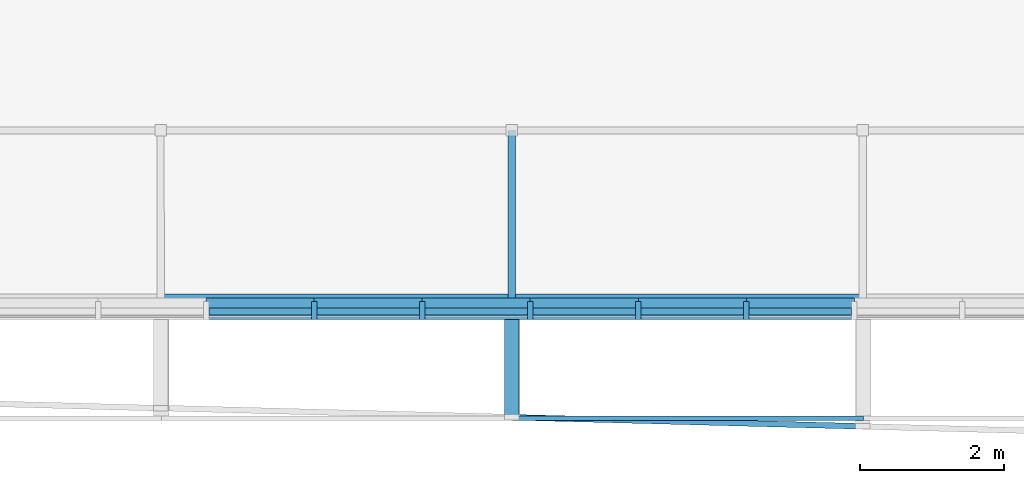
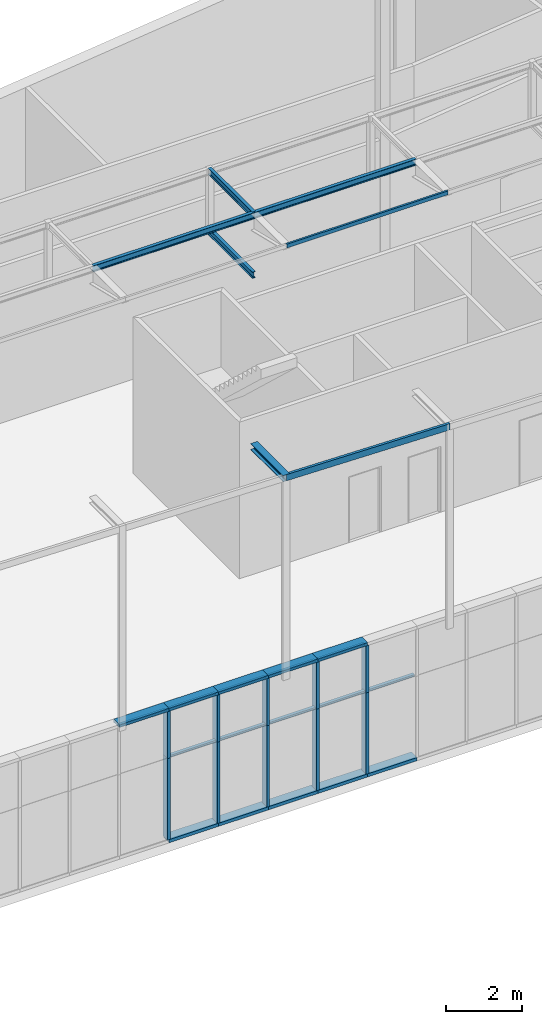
# One storey, part 12 of 40: 30 members, 7 beams, 1 element without a shape of its own.
"""IFC2X3 building model written with IfcOpenShell, lengths in metres."""

from ifc_helpers import new_model, entity, si_unit, converted_unit, money_unit, point, direction, frame, frame_2d, origin_with_axes, place, context, subcontext, project, spatial, polyline, circle_curve, parameter, trimmed, segment, composite_curve, outline, extrude, clip, halfspace, material, type_object, element, aggregate, save


model = new_model("IFC2X3")

# Units and contexts
model_context = context("Model", 3, precision=1e-05, world=origin_with_axes(), true_north=direction((0.0, 1.0)))
body_context = subcontext(model_context, "Body", "Model", "MODEL_VIEW")
ifc_project = project(units=[si_unit("LENGTHUNIT", "METRE"), si_unit("AREAUNIT", "SQUARE_METRE"), si_unit("VOLUMEUNIT", "CUBIC_METRE"), converted_unit("PLANEANGLEUNIT", "DEGREE", entity("IfcPlaneAngleMeasure", 0.0174532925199), si_unit("PLANEANGLEUNIT", "RADIAN"), dimensions=[0, 0, 0, 0, 0, 0, 0]), si_unit("SOLIDANGLEUNIT", "STERADIAN"), money_unit("EUR"), converted_unit("TIMEUNIT", "Year", entity("IfcTimeMeasure", 31556926.0), si_unit("TIMEUNIT", "SECOND"), dimensions=[0, 0, 0, 0, 0, 0, 0]), si_unit("MASSUNIT", "GRAM"), si_unit("THERMODYNAMICTEMPERATUREUNIT", "DEGREE_CELSIUS"), si_unit("LUMINOUSINTENSITYUNIT", "LUMEN")], contexts=[model_context])

# Site, building, storey
site_placement = place(None, origin_with_axes())
site = spatial("IfcSite", under=ifc_project, at=site_placement, Name="Undefined", CompositionType="ELEMENT")
building_placement = place(site_placement, origin_with_axes())
building = spatial("IfcBuilding", under=site, at=building_placement, Name="Undefined", CompositionType="ELEMENT")
storey_placement = place(building_placement, origin_with_axes())
storey = spatial("IfcBuildingStorey", under=building, at=storey_placement, Name="Rez de chauss\x8ee", CompositionType="ELEMENT", Elevation=0.0)

# Beams
ifc_material_1 = material(Name="STEEL/S235JRG2 3386696625")
beam_type_1 = type_object("IfcBeamType", Name="IPE200", PredefinedType="NOTDEFINED")
beam_1_placement = place(storey_placement, frame((42.2249993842, 6.91842413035e-10, 19.02503), z_axis=(0.0, 0.0, 1.0), x_axis=(0.0, -1.0, 0.0)))
element("IfcBeam", 1, at=beam_1_placement, inside=storey, type_object=beam_type_1, material=ifc_material_1, Name="BEAM", ObjectType="BEAM", context=body_context, shape_type="SweptSolid", body=[
    extrude(outline(composite_curve([segment(polyline([(0.05, -0.1), (0.05, -0.0915), (0.0147999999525, -0.0915)]), True, "CONTINUOUS"), segment(trimmed(circle_curve(frame_2d((0.0147999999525, -0.0795), x_axis=(-1.0, 0.0)), 0.012), [point((0.0147999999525, -0.0915)), parameter(90.0)], [point((0.0027999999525, -0.0795)), parameter(0.0)], False, "CARTESIAN"), True, "CONTINUOUS"), segment(polyline([(0.0027999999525, -0.0795), (0.0027999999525, 0.0795)]), True, "CONTINUOUS"), segment(trimmed(circle_curve(frame_2d((0.0147999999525, 0.0795), x_axis=(0.0, 1.0)), 0.012), [point((0.0027999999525, 0.0795)), parameter(90.0)], [point((0.0147999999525, 0.0915)), parameter(0.0)], False, "CARTESIAN"), True, "CONTINUOUS"), segment(polyline([(0.0147999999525, 0.0915), (0.05, 0.0915), (0.05, 0.1), (-0.05, 0.1), (-0.05, 0.0915), (-0.0147999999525, 0.0915)]), True, "CONTINUOUS"), segment(trimmed(circle_curve(frame_2d((-0.0147999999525, 0.0795), x_axis=(1.0, 0.0)), 0.012), [point((-0.0147999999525, 0.0915)), parameter(90.0)], [point((-0.0027999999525, 0.0795)), parameter(0.0)], False, "CARTESIAN"), True, "CONTINUOUS"), segment(polyline([(-0.0027999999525, 0.0795), (-0.0027999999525, -0.0795)]), True, "CONTINUOUS"), segment(trimmed(circle_curve(frame_2d((-0.0147999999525, -0.0795), x_axis=(0.0, -1.0)), 0.012), [point((-0.0027999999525, -0.0795)), parameter(90.0)], [point((-0.0147999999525, -0.0915)), parameter(0.0)], False, "CARTESIAN"), True, "CONTINUOUS"), segment(polyline([(-0.0147999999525, -0.0915), (-0.05, -0.0915), (-0.05, -0.1), (0.05, -0.1)]), True, "CONTINUOUS")], self_intersect=False)), frame((0.0, 4.875, 0.0), z_axis=(0.0, -1.0, 0.0), x_axis=(1.0, 0.0, 0.0)), (0.0, 0.0, 1.0), 4.875),
])
beam_2_placement = place(storey_placement, frame((42.2249999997, -4.6836663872e-06, 19.02503), z_axis=(0.0, 0.0, 1.0), x_axis=(1.0, 0.0, 0.0)))
element("IfcBeam", 2, at=beam_2_placement, inside=storey, type_object=beam_type_1, material=ifc_material_1, Name="BEAM", ObjectType="BEAM", context=body_context, shape_type="Clipping", body=[
    clip(clip(extrude(outline(composite_curve([segment(polyline([(0.05, -0.1), (0.05, -0.0915), (0.0147999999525, -0.0915)]), True, "CONTINUOUS"), segment(trimmed(circle_curve(frame_2d((0.0147999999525, -0.0795), x_axis=(-1.0, 0.0)), 0.012), [point((0.0147999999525, -0.0915)), parameter(90.0)], [point((0.0027999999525, -0.0795)), parameter(0.0)], False, "CARTESIAN"), True, "CONTINUOUS"), segment(polyline([(0.0027999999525, -0.0795), (0.0027999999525, 0.0795)]), True, "CONTINUOUS"), segment(trimmed(circle_curve(frame_2d((0.0147999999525, 0.0795), x_axis=(0.0, 1.0)), 0.012), [point((0.0027999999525, 0.0795)), parameter(90.0)], [point((0.0147999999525, 0.0915)), parameter(0.0)], False, "CARTESIAN"), True, "CONTINUOUS"), segment(polyline([(0.0147999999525, 0.0915), (0.05, 0.0915), (0.05, 0.1), (-0.05, 0.1), (-0.05, 0.0915), (-0.0147999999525, 0.0915)]), True, "CONTINUOUS"), segment(trimmed(circle_curve(frame_2d((-0.0147999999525, 0.0795), x_axis=(1.0, 0.0)), 0.012), [point((-0.0147999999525, 0.0915)), parameter(90.0)], [point((-0.0027999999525, 0.0795)), parameter(0.0)], False, "CARTESIAN"), True, "CONTINUOUS"), segment(polyline([(-0.0027999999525, 0.0795), (-0.0027999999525, -0.0795)]), True, "CONTINUOUS"), segment(trimmed(circle_curve(frame_2d((-0.0147999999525, -0.0795), x_axis=(0.0, -1.0)), 0.012), [point((-0.0027999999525, -0.0795)), parameter(90.0)], [point((-0.0147999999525, -0.0915)), parameter(0.0)], False, "CARTESIAN"), True, "CONTINUOUS"), segment(polyline([(-0.0147999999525, -0.0915), (-0.05, -0.0915), (-0.05, -0.1), (0.05, -0.1)]), True, "CONTINUOUS")], self_intersect=False)), frame((0.0, 2.32501018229, -2.79001147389e-05), z_axis=(0.0, -0.999999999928, 1.19999967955e-05), x_axis=(1.0, 0.0, 0.0)), (0.0, 0.0, 1.0), 2.32501357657), halfspace(frame((0.0, 3.39411164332e-06, 0.0), z_axis=(0.0, 0.999999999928, -1.19999967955e-05), x_axis=(0.0, 1.19999967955e-05, 0.999999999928)), True)), halfspace(frame((0.0, 2.32500339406, -2.79000332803e-05), z_axis=(0.0, -0.999999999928, 1.19999967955e-05), x_axis=(0.0, -1.19999967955e-05, -0.999999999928)), True)),
])
beam_3_placement = place(storey_placement, frame((42.2249999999, 8.60741256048e-10, 17.1), z_axis=(0.0, 0.0, 1.0), x_axis=(1.0, 0.0, 0.0)))
element("IfcBeam", 3, at=beam_3_placement, inside=storey, type_object=beam_type_1, material=ifc_material_1, Name="BEAM", ObjectType="BEAM", context=body_context, shape_type="SweptSolid", body=[
    extrude(outline(composite_curve([segment(polyline([(0.05, -0.1), (0.05, -0.0915), (0.0147999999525, -0.0915)]), True, "CONTINUOUS"), segment(trimmed(circle_curve(frame_2d((0.0147999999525, -0.0795), x_axis=(-1.0, 0.0)), 0.012), [point((0.0147999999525, -0.0915)), parameter(90.0)], [point((0.0027999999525, -0.0795)), parameter(0.0)], False, "CARTESIAN"), True, "CONTINUOUS"), segment(polyline([(0.0027999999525, -0.0795), (0.0027999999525, 0.0795)]), True, "CONTINUOUS"), segment(trimmed(circle_curve(frame_2d((0.0147999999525, 0.0795), x_axis=(0.0, 1.0)), 0.012), [point((0.0027999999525, 0.0795)), parameter(90.0)], [point((0.0147999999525, 0.0915)), parameter(0.0)], False, "CARTESIAN"), True, "CONTINUOUS"), segment(polyline([(0.0147999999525, 0.0915), (0.05, 0.0915), (0.05, 0.1), (-0.05, 0.1), (-0.05, 0.0915), (-0.0147999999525, 0.0915)]), True, "CONTINUOUS"), segment(trimmed(circle_curve(frame_2d((-0.0147999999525, 0.0795), x_axis=(1.0, 0.0)), 0.012), [point((-0.0147999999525, 0.0915)), parameter(90.0)], [point((-0.0027999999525, 0.0795)), parameter(0.0)], False, "CARTESIAN"), True, "CONTINUOUS"), segment(polyline([(-0.0027999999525, 0.0795), (-0.0027999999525, -0.0795)]), True, "CONTINUOUS"), segment(trimmed(circle_curve(frame_2d((-0.0147999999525, -0.0795), x_axis=(0.0, -1.0)), 0.012), [point((-0.0027999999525, -0.0795)), parameter(90.0)], [point((-0.0147999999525, -0.0915)), parameter(0.0)], False, "CARTESIAN"), True, "CONTINUOUS"), segment(polyline([(-0.0147999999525, -0.0915), (-0.05, -0.0915), (-0.05, -0.1), (0.05, -0.1)]), True, "CONTINUOUS")], self_intersect=False)), frame((0.0, 2.325, 0.0), z_axis=(0.0, -1.0, 0.0), x_axis=(1.0, 0.0, 0.0)), (0.0, 0.0, 1.0), 2.325),
])
beam_4_placement = place(storey_placement, frame((37.350000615, 5.48680709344e-10, 19.025), z_axis=(0.0, 0.0, 1.0), x_axis=(0.0, -1.0, 0.0)))
element("IfcBeam", 4, at=beam_4_placement, inside=storey, type_object=beam_type_1, material=ifc_material_1, Name="Poutre", ObjectType="BEAM", context=body_context, shape_type="SweptSolid", body=[
    extrude(outline(composite_curve([segment(polyline([(0.05, -0.1), (0.05, -0.0915), (0.0147999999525, -0.0915)]), True, "CONTINUOUS"), segment(trimmed(circle_curve(frame_2d((0.0147999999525, -0.0795), x_axis=(-1.0, 0.0)), 0.012), [point((0.0147999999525, -0.0915)), parameter(90.0)], [point((0.0027999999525, -0.0795)), parameter(0.0)], False, "CARTESIAN"), True, "CONTINUOUS"), segment(polyline([(0.0027999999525, -0.0795), (0.0027999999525, 0.0795)]), True, "CONTINUOUS"), segment(trimmed(circle_curve(frame_2d((0.0147999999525, 0.0795), x_axis=(0.0, 1.0)), 0.012), [point((0.0027999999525, 0.0795)), parameter(90.0)], [point((0.0147999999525, 0.0915)), parameter(0.0)], False, "CARTESIAN"), True, "CONTINUOUS"), segment(polyline([(0.0147999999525, 0.0915), (0.05, 0.0915), (0.05, 0.1), (-0.05, 0.1), (-0.05, 0.0915), (-0.0147999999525, 0.0915)]), True, "CONTINUOUS"), segment(trimmed(circle_curve(frame_2d((-0.0147999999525, 0.0795), x_axis=(1.0, 0.0)), 0.012), [point((-0.0147999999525, 0.0915)), parameter(90.0)], [point((-0.0027999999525, 0.0795)), parameter(0.0)], False, "CARTESIAN"), True, "CONTINUOUS"), segment(polyline([(-0.0027999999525, 0.0795), (-0.0027999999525, -0.0795)]), True, "CONTINUOUS"), segment(trimmed(circle_curve(frame_2d((-0.0147999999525, -0.0795), x_axis=(0.0, -1.0)), 0.012), [point((-0.0027999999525, -0.0795)), parameter(90.0)], [point((-0.0147999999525, -0.0915)), parameter(0.0)], False, "CARTESIAN"), True, "CONTINUOUS"), segment(polyline([(-0.0147999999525, -0.0915), (-0.05, -0.0915), (-0.05, -0.1), (0.05, -0.1)]), True, "CONTINUOUS")], self_intersect=False)), frame((0.0, 4.875, 0.0), z_axis=(0.0, -1.0, 0.0), x_axis=(1.0, 0.0, 0.0)), (0.0, 0.0, 1.0), 4.875),
])
beam_type_2 = type_object("IfcBeamType", Name="UPE200", PredefinedType="NOTDEFINED")
beam_5_placement = place(storey_placement, frame((42.226038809, -1.65825879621, 11.65), z_axis=(0.0, 0.0, 1.0), x_axis=(-0.0258861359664, -0.999664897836, 0.0)))
element("IfcBeam", 5, at=beam_5_placement, inside=storey, type_object=beam_type_2, material=ifc_material_1, Name="BEAM", ObjectType="BEAM", context=body_context, shape_type="SweptSolid", body=[
    extrude(outline(composite_curve([segment(polyline([(-0.04, -0.1), (0.04, -0.1), (0.04, -0.089), (-0.021, -0.089)]), True, "CONTINUOUS"), segment(trimmed(circle_curve(frame_2d((-0.021, -0.076), x_axis=(-1.0, 0.0)), 0.013), [point((-0.021, -0.089)), parameter(90.0)], [point((-0.034, -0.076)), parameter(0.0)], False, "CARTESIAN"), True, "CONTINUOUS"), segment(polyline([(-0.034, -0.076), (-0.034, 0.076)]), True, "CONTINUOUS"), segment(trimmed(circle_curve(frame_2d((-0.021, 0.076), x_axis=(0.0, 1.0)), 0.013), [point((-0.034, 0.076)), parameter(90.0)], [point((-0.021, 0.089)), parameter(0.0)], False, "CARTESIAN"), True, "CONTINUOUS"), segment(polyline([(-0.021, 0.089), (0.04, 0.089), (0.04, 0.1), (-0.04, 0.1), (-0.04, -0.1)]), True, "CONTINUOUS")], self_intersect=False)), frame((0.0, 4.87663417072, 0.0), z_axis=(0.0, -1.0, 0.0), x_axis=(-1.0, 0.0, 0.0)), (0.0, 0.0, 1.0), 4.87663417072),
])
beam_type_3 = type_object("IfcBeamType", Name="UPE120", PredefinedType="NOTDEFINED")
beam_6_placement = place(storey_placement, frame((42.2346818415, -1.67000005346, 19.045), z_axis=(0.0, 0.0, 1.0), x_axis=(0.0, -1.0, 0.0)))
element("IfcBeam", 6, at=beam_6_placement, inside=storey, type_object=beam_type_3, material=ifc_material_1, Name="Poutre", ObjectType="BEAM", context=body_context, shape_type="SweptSolid", body=[
    extrude(outline(composite_curve([segment(polyline([(-0.03, -0.06), (0.03, -0.06), (0.03, -0.052), (-0.013, -0.052)]), True, "CONTINUOUS"), segment(trimmed(circle_curve(frame_2d((-0.013, -0.04), x_axis=(-1.0, 0.0)), 0.012), [point((-0.013, -0.052)), parameter(90.0)], [point((-0.025, -0.04)), parameter(0.0)], False, "CARTESIAN"), True, "CONTINUOUS"), segment(polyline([(-0.025, -0.04), (-0.025, 0.04)]), True, "CONTINUOUS"), segment(trimmed(circle_curve(frame_2d((-0.013, 0.04), x_axis=(0.0, 1.0)), 0.012), [point((-0.025, 0.04)), parameter(90.0)], [point((-0.013, 0.052)), parameter(0.0)], False, "CARTESIAN"), True, "CONTINUOUS"), segment(polyline([(-0.013, 0.052), (0.03, 0.052), (0.03, 0.06), (-0.03, 0.06), (-0.03, -0.06)]), True, "CONTINUOUS")], self_intersect=False)), frame((0.0, 4.87499951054, 0.0), z_axis=(0.0, -1.0, 0.0), x_axis=(-1.0, 0.0, 0.0)), (0.0, 0.0, 1.0), 4.87499951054),
])
beam_type_4 = type_object("IfcBeamType", Name="HEB200", PredefinedType="NOTDEFINED")
beam_7_placement = place(storey_placement, frame((42.2249999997, 6.92364610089e-10, 11.65), z_axis=(0.0, 0.0, 1.0), x_axis=(-1.0, 0.0, 0.0)))
element("IfcBeam", 7, at=beam_7_placement, inside=storey, type_object=beam_type_4, material=ifc_material_1, Name="BEAM", ObjectType="BEAM", context=body_context, shape_type="SweptSolid", body=[
    extrude(outline(composite_curve([segment(polyline([(0.1, -0.1), (0.1, -0.085), (0.0225, -0.085)]), True, "CONTINUOUS"), segment(trimmed(circle_curve(frame_2d((0.0225, -0.067), x_axis=(-1.0, 0.0)), 0.018), [point((0.0225, -0.085)), parameter(90.0)], [point((0.0045, -0.067)), parameter(0.0)], False, "CARTESIAN"), True, "CONTINUOUS"), segment(polyline([(0.0045, -0.067), (0.0045, 0.067)]), True, "CONTINUOUS"), segment(trimmed(circle_curve(frame_2d((0.0225, 0.067), x_axis=(0.0, 1.0)), 0.018), [point((0.0045, 0.067)), parameter(90.0)], [point((0.0225, 0.085)), parameter(0.0)], False, "CARTESIAN"), True, "CONTINUOUS"), segment(polyline([(0.0225, 0.085), (0.1, 0.085), (0.1, 0.1), (-0.1, 0.1), (-0.1, 0.085), (-0.0225, 0.085)]), True, "CONTINUOUS"), segment(trimmed(circle_curve(frame_2d((-0.0225, 0.067), x_axis=(1.0, 0.0)), 0.018), [point((-0.0225, 0.085)), parameter(90.0)], [point((-0.0045, 0.067)), parameter(0.0)], False, "CARTESIAN"), True, "CONTINUOUS"), segment(polyline([(-0.0045, 0.067), (-0.0045, -0.067)]), True, "CONTINUOUS"), segment(trimmed(circle_curve(frame_2d((-0.0225, -0.067), x_axis=(0.0, -1.0)), 0.018), [point((-0.0045, -0.067)), parameter(90.0)], [point((-0.0225, -0.085)), parameter(0.0)], False, "CARTESIAN"), True, "CONTINUOUS"), segment(polyline([(-0.0225, -0.085), (-0.1, -0.085), (-0.1, -0.1), (0.1, -0.1)]), True, "CONTINUOUS")], self_intersect=False)), frame((0.0, 1.69643261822, 0.0), z_axis=(0.0, -1.0, 0.0), x_axis=(1.0, 0.0, 0.0)), (0.0, 0.0, 1.0), 1.69643261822),
])

# Curtain wall, members
curtain_wall_type = type_object("IfcCurtainWallType", Name="Type de mur-rideau", PredefinedType="NOTDEFINED")
curtain_wall_placement = place(storey_placement, frame((61.0415862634, -0.249999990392, 0.1), z_axis=(0.0, 0.0, 1.0), x_axis=(1.0, 0.0, 0.0)))
curtain_wall = element("IfcCurtainWall", 8, at=curtain_wall_placement, inside=storey, type_object=curtain_wall_type, Name="CurtainWall_02", ObjectType="CURTAIN WALL")
ifc_material_2 = material(Name="25 % 359672764")
member_type_1 = type_object("IfcMemberType", Name="Cadre 100 x 300", PredefinedType="NOTDEFINED")
member_1_placement = place(curtain_wall_placement, frame((-21.5584137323, 3.70949553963e-07, 0.0), z_axis=(1.0, -1.72067183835e-08, 0.0), x_axis=(0.0, 0.0, 1.0)))
member_1 = element("IfcMember", 9, at=member_1_placement, type_object=member_type_1, material=ifc_material_2, Name="Frame-Bnd-919", context=body_context, shape_type="SweptSolid", body=[
    extrude(outline(polyline([(-0.25, -0.1), (0.05, -0.1), (0.05, 0.0), (-0.25, 0.0), (-0.25, -0.1)])), frame((0.0, 0.0, 0.0), z_axis=(0.0, 0.0, 1.0), x_axis=(0.0, 1.0, 0.0)), (0.0, 0.0, 1.0), 1.5),
])
member_2_placement = place(curtain_wall_placement, frame((-20.0584137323, 3.45139476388e-07, 0.0), z_axis=(1.0, -1.72067183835e-08, 0.0), x_axis=(0.0, 0.0, 1.0)))
member_2 = element("IfcMember", 10, at=member_2_placement, type_object=member_type_1, material=ifc_material_2, Name="Frame-Bnd-918", context=body_context, shape_type="SweptSolid", body=[
    extrude(outline(polyline([(-0.25, -0.1), (0.05, -0.1), (0.05, 0.0), (-0.25, 0.0), (-0.25, -0.1)])), frame((0.0, 0.0, 0.0), z_axis=(0.0, 0.0, 1.0), x_axis=(0.0, 1.0, 0.0)), (0.0, 0.0, 1.0), 1.5),
])
member_3_placement = place(curtain_wall_placement, frame((-18.5584137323, 3.19329398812e-07, 0.0), z_axis=(1.0, -1.7206718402e-08, 0.0), x_axis=(0.0, 0.0, 1.0)))
member_3 = element("IfcMember", 11, at=member_3_placement, type_object=member_type_1, material=ifc_material_2, Name="Frame-Bnd-917", context=body_context, shape_type="SweptSolid", body=[
    extrude(outline(polyline([(-0.25, -0.1), (0.05, -0.1), (0.05, 0.0), (-0.25, 0.0), (-0.25, -0.1)])), frame((0.0, 0.0, 0.0), z_axis=(0.0, 0.0, 1.0), x_axis=(0.0, 1.0, 0.0)), (0.0, 0.0, 1.0), 1.5),
])
member_4_placement = place(curtain_wall_placement, frame((-17.0584137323, 2.93519321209e-07, 0.0), z_axis=(1.0, -1.72067183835e-08, 0.0), x_axis=(0.0, 0.0, 1.0)))
member_4 = element("IfcMember", 12, at=member_4_placement, type_object=member_type_1, material=ifc_material_2, Name="Frame-Bnd-916", context=body_context, shape_type="SweptSolid", body=[
    extrude(outline(polyline([(-0.25, -0.1), (0.05, -0.1), (0.05, 0.0), (-0.25, 0.0), (-0.25, -0.1)])), frame((0.0, 0.0, 0.0), z_axis=(0.0, 0.0, 1.0), x_axis=(0.0, 1.0, 0.0)), (0.0, 0.0, 1.0), 1.5),
])
member_5_placement = place(curtain_wall_placement, frame((-15.5584137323, 2.67709243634e-07, 0.0), z_axis=(1.0, -1.72067183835e-08, 0.0), x_axis=(0.0, 0.0, 1.0)))
member_5 = element("IfcMember", 13, at=member_5_placement, type_object=member_type_1, material=ifc_material_2, Name="Frame-Bnd-915", context=body_context, shape_type="SweptSolid", body=[
    extrude(outline(polyline([(-0.25, -0.1), (0.05, -0.1), (0.05, 0.0), (-0.25, 0.0), (-0.25, -0.1)])), frame((0.0, 0.0, 0.0), z_axis=(0.0, 0.0, 1.0), x_axis=(0.0, 1.0, 0.0)), (0.0, 0.0, 1.0), 1.5),
])
member_6_placement = place(curtain_wall_placement, frame((-15.5584137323, 2.67709243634e-07, 4.3), z_axis=(-1.0, 1.72067183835e-08, 0.0), x_axis=(0.0, 0.0, -1.0)))
member_6 = element("IfcMember", 14, at=member_6_placement, type_object=member_type_1, material=ifc_material_2, Name="Frame-Bnd-802", context=body_context, shape_type="SweptSolid", body=[
    extrude(outline(polyline([(0.25, 0.1), (-0.05, 0.1), (-0.05, 0.0), (0.25, 0.0), (0.25, 0.1)])), frame((0.0, 0.0, 0.0), z_axis=(0.0, 0.0, 1.0), x_axis=(0.0, -1.0, 0.0)), (0.0, 0.0, 1.0), 1.5),
])
member_7_placement = place(curtain_wall_placement, frame((-17.0584137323, 2.93519321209e-07, 4.3), z_axis=(-1.0, 1.7206718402e-08, 0.0), x_axis=(0.0, 0.0, -1.0)))
member_7 = element("IfcMember", 15, at=member_7_placement, type_object=member_type_1, material=ifc_material_2, Name="Frame-Bnd-801", context=body_context, shape_type="SweptSolid", body=[
    extrude(outline(polyline([(0.25, 0.1), (-0.05, 0.1), (-0.05, 0.0), (0.25, 0.0), (0.25, 0.1)])), frame((0.0, 0.0, 0.0), z_axis=(0.0, 0.0, 1.0), x_axis=(0.0, -1.0, 0.0)), (0.0, 0.0, 1.0), 1.5),
])
member_8_placement = place(curtain_wall_placement, frame((-18.5584137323, 3.19329398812e-07, 4.3), z_axis=(-1.0, 1.72067183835e-08, 0.0), x_axis=(0.0, 0.0, -1.0)))
member_8 = element("IfcMember", 16, at=member_8_placement, type_object=member_type_1, material=ifc_material_2, Name="Frame-Bnd-800", context=body_context, shape_type="SweptSolid", body=[
    extrude(outline(polyline([(0.25, 0.1), (-0.05, 0.1), (-0.05, 0.0), (0.25, 0.0), (0.25, 0.1)])), frame((0.0, 0.0, 0.0), z_axis=(0.0, 0.0, 1.0), x_axis=(0.0, -1.0, 0.0)), (0.0, 0.0, 1.0), 1.5),
])
member_9_placement = place(curtain_wall_placement, frame((-20.0584137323, 3.45139476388e-07, 4.3), z_axis=(-1.0, 1.72067183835e-08, 0.0), x_axis=(0.0, 0.0, -1.0)))
member_9 = element("IfcMember", 17, at=member_9_placement, type_object=member_type_1, material=ifc_material_2, Name="Frame-Bnd-799", context=body_context, shape_type="SweptSolid", body=[
    extrude(outline(polyline([(0.25, 0.1), (-0.05, 0.1), (-0.05, 0.0), (0.25, 0.0), (0.25, 0.1)])), frame((0.0, 0.0, 0.0), z_axis=(0.0, 0.0, 1.0), x_axis=(0.0, -1.0, 0.0)), (0.0, 0.0, 1.0), 1.5),
])
member_10_placement = place(curtain_wall_placement, frame((-21.5584137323, 3.70949553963e-07, 4.3), z_axis=(-1.0, 1.72067183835e-08, 0.0), x_axis=(0.0, 0.0, -1.0)))
member_10 = element("IfcMember", 18, at=member_10_placement, type_object=member_type_1, material=ifc_material_2, Name="Frame-Bnd-798", context=body_context, shape_type="SweptSolid", body=[
    extrude(outline(polyline([(0.25, 0.1), (-0.05, 0.1), (-0.05, 0.0), (0.25, 0.0), (0.25, 0.1)])), frame((0.0, 0.0, 0.0), z_axis=(0.0, 0.0, 1.0), x_axis=(0.0, -1.0, 0.0)), (0.0, 0.0, 1.0), 1.5),
])
member_type_2 = type_object("IfcMemberType", Name="Montant 80 x 250", PredefinedType="NOTDEFINED")
member_11_placement = place(curtain_wall_placement, frame((-21.5584137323, 3.70949553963e-07, 0.0), z_axis=(0.0, 0.0, 1.0), x_axis=(-1.0, 1.72067183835e-08, 0.0)))
member_11 = element("IfcMember", 19, at=member_11_placement, type_object=member_type_2, material=ifc_material_2, Name="Frame-Mll-283", context=body_context, shape_type="SweptSolid", body=[
    extrude(outline(polyline([(-0.0399999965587, 0.200000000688), (-0.0400000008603, -0.0499999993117), (0.0399999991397, -0.0500000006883), (0.0400000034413, 0.199999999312), (-0.0399999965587, 0.200000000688)])), frame((0.0, 0.0, 0.1), z_axis=(0.0, 0.0, 1.0), x_axis=(-1.0, -1.72067183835e-08, 0.0)), (0.0, 0.0, 1.0), 2.6),
])
member_12_placement = place(curtain_wall_placement, frame((-20.0584137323, 3.45139476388e-07, 0.0), z_axis=(0.0, 0.0, 1.0), x_axis=(-1.0, 1.72067183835e-08, 0.0)))
member_12 = element("IfcMember", 20, at=member_12_placement, type_object=member_type_2, material=ifc_material_2, Name="Frame-Mll-283", context=body_context, shape_type="SweptSolid", body=[
    extrude(outline(polyline([(-0.0399999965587, 0.200000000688), (-0.0400000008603, -0.0499999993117), (0.0399999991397, -0.0500000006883), (0.0400000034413, 0.199999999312), (-0.0399999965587, 0.200000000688)])), frame((0.0, 0.0, 0.1), z_axis=(0.0, 0.0, 1.0), x_axis=(-1.0, -1.72067183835e-08, 0.0)), (0.0, 0.0, 1.0), 2.6),
])
member_13_placement = place(curtain_wall_placement, frame((-18.5584137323, 3.19329398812e-07, 0.0), z_axis=(0.0, 0.0, 1.0), x_axis=(-1.0, 1.72067183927e-08, 0.0)))
member_13 = element("IfcMember", 21, at=member_13_placement, type_object=member_type_2, material=ifc_material_2, Name="Frame-Mll-283", context=body_context, shape_type="SweptSolid", body=[
    extrude(outline(polyline([(-0.0399999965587, 0.200000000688), (-0.0400000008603, -0.0499999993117), (0.0399999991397, -0.0500000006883), (0.0400000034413, 0.199999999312), (-0.0399999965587, 0.200000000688)])), frame((0.0, 0.0, 0.1), z_axis=(0.0, 0.0, 1.0), x_axis=(-1.0, -1.72067183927e-08, 0.0)), (0.0, 0.0, 1.0), 2.6),
])
member_14_placement = place(curtain_wall_placement, frame((-17.0584137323, 2.93519321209e-07, 0.0), z_axis=(0.0, 0.0, 1.0), x_axis=(-1.0, 1.72067183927e-08, 0.0)))
member_14 = element("IfcMember", 22, at=member_14_placement, type_object=member_type_2, material=ifc_material_2, Name="Frame-Mll-283", context=body_context, shape_type="SweptSolid", body=[
    extrude(outline(polyline([(-0.0399999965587, 0.200000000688), (-0.0400000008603, -0.0499999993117), (0.0399999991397, -0.0500000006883), (0.0400000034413, 0.199999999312), (-0.0399999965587, 0.200000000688)])), frame((0.0, 0.0, 0.1), z_axis=(0.0, 0.0, 1.0), x_axis=(-1.0, -1.72067183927e-08, 0.0)), (0.0, 0.0, 1.0), 2.6),
])
member_15_placement = place(curtain_wall_placement, frame((-15.5584137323, 2.67709243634e-07, 0.0), z_axis=(0.0, 0.0, 1.0), x_axis=(-1.0, 1.72067183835e-08, 0.0)))
member_15 = element("IfcMember", 23, at=member_15_placement, type_object=member_type_2, material=ifc_material_2, Name="Frame-Mll-283", context=body_context, shape_type="SweptSolid", body=[
    extrude(outline(polyline([(-0.0399999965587, 0.200000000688), (-0.0400000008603, -0.0499999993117), (0.0399999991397, -0.0500000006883), (0.0400000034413, 0.199999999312), (-0.0399999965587, 0.200000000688)])), frame((0.0, 0.0, 0.1), z_axis=(0.0, 0.0, 1.0), x_axis=(-1.0, -1.72067183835e-08, 0.0)), (0.0, 0.0, 1.0), 2.6),
])
member_16_placement = place(curtain_wall_placement, frame((-21.5584137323, 3.70949553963e-07, 2.7), z_axis=(0.0, 0.0, 1.0), x_axis=(-1.0, 1.72067183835e-08, 0.0)))
member_16 = element("IfcMember", 24, at=member_16_placement, type_object=member_type_2, material=ifc_material_2, Name="Frame-Mll-674", context=body_context, shape_type="SweptSolid", body=[
    extrude(outline(polyline([(-0.0399999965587, 0.200000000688), (-0.0400000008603, -0.0499999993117), (0.0399999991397, -0.0500000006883), (0.0400000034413, 0.199999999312), (-0.0399999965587, 0.200000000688)])), frame((0.0, 0.0, 0.0), z_axis=(0.0, 0.0, 1.0), x_axis=(-1.0, -1.72067183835e-08, 0.0)), (0.0, 0.0, 1.0), 1.5),
])
member_17_placement = place(curtain_wall_placement, frame((-20.0584137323, 3.45139476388e-07, 2.7), z_axis=(0.0, 0.0, 1.0), x_axis=(-1.0, 1.72067183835e-08, 0.0)))
member_17 = element("IfcMember", 25, at=member_17_placement, type_object=member_type_2, material=ifc_material_2, Name="Frame-Mll-675", context=body_context, shape_type="SweptSolid", body=[
    extrude(outline(polyline([(-0.0399999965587, 0.200000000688), (-0.0400000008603, -0.0499999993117), (0.0399999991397, -0.0500000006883), (0.0400000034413, 0.199999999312), (-0.0399999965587, 0.200000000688)])), frame((0.0, 0.0, 0.0), z_axis=(0.0, 0.0, 1.0), x_axis=(-1.0, -1.72067183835e-08, 0.0)), (0.0, 0.0, 1.0), 1.5),
])
member_18_placement = place(curtain_wall_placement, frame((-18.5584137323, 3.19329398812e-07, 2.7), z_axis=(0.0, 0.0, 1.0), x_axis=(-1.0, 1.72067183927e-08, 0.0)))
member_18 = element("IfcMember", 26, at=member_18_placement, type_object=member_type_2, material=ifc_material_2, Name="Frame-Mll-676", context=body_context, shape_type="SweptSolid", body=[
    extrude(outline(polyline([(-0.0399999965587, 0.200000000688), (-0.0400000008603, -0.0499999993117), (0.0399999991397, -0.0500000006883), (0.0400000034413, 0.199999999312), (-0.0399999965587, 0.200000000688)])), frame((0.0, 0.0, 0.0), z_axis=(0.0, 0.0, 1.0), x_axis=(-1.0, -1.72067183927e-08, 0.0)), (0.0, 0.0, 1.0), 1.5),
])
member_19_placement = place(curtain_wall_placement, frame((-17.0584137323, 2.93519321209e-07, 2.7), z_axis=(0.0, 0.0, 1.0), x_axis=(-1.0, 1.72067183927e-08, 0.0)))
member_19 = element("IfcMember", 27, at=member_19_placement, type_object=member_type_2, material=ifc_material_2, Name="Frame-Mll-677", context=body_context, shape_type="SweptSolid", body=[
    extrude(outline(polyline([(-0.0399999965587, 0.200000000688), (-0.0400000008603, -0.0499999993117), (0.0399999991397, -0.0500000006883), (0.0400000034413, 0.199999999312), (-0.0399999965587, 0.200000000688)])), frame((0.0, 0.0, 0.0), z_axis=(0.0, 0.0, 1.0), x_axis=(-1.0, -1.72067183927e-08, 0.0)), (0.0, 0.0, 1.0), 1.5),
])
member_20_placement = place(curtain_wall_placement, frame((-15.5584137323, 2.67709243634e-07, 2.7), z_axis=(0.0, 0.0, 1.0), x_axis=(-1.0, 1.72067183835e-08, 0.0)))
member_20 = element("IfcMember", 28, at=member_20_placement, type_object=member_type_2, material=ifc_material_2, Name="Frame-Mll-678", context=body_context, shape_type="SweptSolid", body=[
    extrude(outline(polyline([(-0.0399999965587, 0.200000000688), (-0.0400000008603, -0.0499999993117), (0.0399999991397, -0.0500000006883), (0.0400000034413, 0.199999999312), (-0.0399999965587, 0.200000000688)])), frame((0.0, 0.0, 0.0), z_axis=(0.0, 0.0, 1.0), x_axis=(-1.0, -1.72067183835e-08, 0.0)), (0.0, 0.0, 1.0), 1.5),
])
member_type_3 = type_object("IfcMemberType", Name="Traverse 60 x 100", PredefinedType="NOTDEFINED")
member_21_placement = place(curtain_wall_placement, frame((-21.5584137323, 3.70949553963e-07, 2.7), z_axis=(1.0, -1.72067183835e-08, 0.0), x_axis=(0.0, 0.0, 1.0)))
member_21 = element("IfcMember", 29, at=member_21_placement, type_object=member_type_3, material=ifc_material_2, Name="Frame-Trs-922", context=body_context, shape_type="SweptSolid", body=[
    extrude(outline(polyline([(-0.11, -0.03), (-0.01, -0.03), (-0.01, 0.03), (-0.11, 0.03), (-0.11, -0.03)])), frame((0.0, 0.0, 0.04), z_axis=(0.0, 0.0, 1.0), x_axis=(0.0, 1.0, 0.0)), (0.0, 0.0, 1.0), 1.42),
])
member_22_placement = place(curtain_wall_placement, frame((-20.0584137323, 3.45139476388e-07, 2.7), z_axis=(1.0, -1.72067183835e-08, 0.0), x_axis=(0.0, 0.0, 1.0)))
member_22 = element("IfcMember", 30, at=member_22_placement, type_object=member_type_3, material=ifc_material_2, Name="Frame-Trs-922", context=body_context, shape_type="SweptSolid", body=[
    extrude(outline(polyline([(-0.11, -0.03), (-0.01, -0.03), (-0.01, 0.03), (-0.11, 0.03), (-0.11, -0.03)])), frame((0.0, 0.0, 0.04), z_axis=(0.0, 0.0, 1.0), x_axis=(0.0, 1.0, 0.0)), (0.0, 0.0, 1.0), 1.42),
])
member_23_placement = place(curtain_wall_placement, frame((-18.5584137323, 3.19329398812e-07, 2.7), z_axis=(1.0, -1.7206718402e-08, 0.0), x_axis=(0.0, 0.0, 1.0)))
member_23 = element("IfcMember", 31, at=member_23_placement, type_object=member_type_3, material=ifc_material_2, Name="Frame-Trs-922", context=body_context, shape_type="SweptSolid", body=[
    extrude(outline(polyline([(-0.11, -0.03), (-0.01, -0.03), (-0.01, 0.03), (-0.11, 0.03), (-0.11, -0.03)])), frame((0.0, 0.0, 0.04), z_axis=(0.0, 0.0, 1.0), x_axis=(0.0, 1.0, 0.0)), (0.0, 0.0, 1.0), 1.42),
])
member_24_placement = place(curtain_wall_placement, frame((-17.0584137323, 2.93519321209e-07, 2.7), z_axis=(1.0, -1.72067183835e-08, 0.0), x_axis=(0.0, 0.0, 1.0)))
member_24 = element("IfcMember", 32, at=member_24_placement, type_object=member_type_3, material=ifc_material_2, Name="Frame-Trs-922", context=body_context, shape_type="SweptSolid", body=[
    extrude(outline(polyline([(-0.11, -0.03), (-0.01, -0.03), (-0.01, 0.03), (-0.11, 0.03), (-0.11, -0.03)])), frame((0.0, 0.0, 0.04), z_axis=(0.0, 0.0, 1.0), x_axis=(0.0, 1.0, 0.0)), (0.0, 0.0, 1.0), 1.42),
])
member_25_placement = place(curtain_wall_placement, frame((-15.5584137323, 2.67709243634e-07, 2.7), z_axis=(1.0, -1.72067183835e-08, 0.0), x_axis=(0.0, 0.0, 1.0)))
member_25 = element("IfcMember", 33, at=member_25_placement, type_object=member_type_3, material=ifc_material_2, Name="Frame-Trs-922", context=body_context, shape_type="SweptSolid", body=[
    extrude(outline(polyline([(-0.11, -0.03), (-0.01, -0.03), (-0.01, 0.03), (-0.11, 0.03), (-0.11, -0.03)])), frame((0.0, 0.0, 0.04), z_axis=(0.0, 0.0, 1.0), x_axis=(0.0, 1.0, 0.0)), (0.0, 0.0, 1.0), 1.42),
])
member_26_placement = place(curtain_wall_placement, frame((-23.0584137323, 3.96759631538e-07, 4.2), z_axis=(1.0, -1.72067183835e-08, 0.0), x_axis=(0.0, 0.0, 1.0)))
member_26 = element("IfcMember", 34, at=member_26_placement, type_object=member_type_3, material=ifc_material_2, Name="Frame-Trs-227", context=body_context, shape_type="SweptSolid", body=[
    extrude(outline(polyline([(-0.11, -0.03), (-0.01, -0.03), (-0.01, 0.03), (-0.11, 0.03), (-0.11, -0.03)])), frame((0.0, 0.0, 0.04), z_axis=(0.0, 0.0, 1.0), x_axis=(0.0, 1.0, 0.0)), (0.0, 0.0, 1.0), 1.42),
])
member_27_placement = place(curtain_wall_placement, frame((-21.5584137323, 3.70949553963e-07, 4.2), z_axis=(1.0, -1.72067183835e-08, 0.0), x_axis=(0.0, 0.0, 1.0)))
member_27 = element("IfcMember", 35, at=member_27_placement, type_object=member_type_3, material=ifc_material_2, Name="Frame-Trs-227", context=body_context, shape_type="SweptSolid", body=[
    extrude(outline(polyline([(-0.11, -0.03), (-0.01, -0.03), (-0.01, 0.03), (-0.11, 0.03), (-0.11, -0.03)])), frame((0.0, 0.0, 0.04), z_axis=(0.0, 0.0, 1.0), x_axis=(0.0, 1.0, 0.0)), (0.0, 0.0, 1.0), 1.42),
])
member_28_placement = place(curtain_wall_placement, frame((-20.0584137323, 3.45139476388e-07, 4.2), z_axis=(1.0, -1.72067183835e-08, 0.0), x_axis=(0.0, 0.0, 1.0)))
member_28 = element("IfcMember", 36, at=member_28_placement, type_object=member_type_3, material=ifc_material_2, Name="Frame-Trs-227", context=body_context, shape_type="SweptSolid", body=[
    extrude(outline(polyline([(-0.11, -0.03), (-0.01, -0.03), (-0.01, 0.03), (-0.11, 0.03), (-0.11, -0.03)])), frame((0.0, 0.0, 0.04), z_axis=(0.0, 0.0, 1.0), x_axis=(0.0, 1.0, 0.0)), (0.0, 0.0, 1.0), 1.42),
])
member_29_placement = place(curtain_wall_placement, frame((-18.5584137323, 3.19329398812e-07, 4.2), z_axis=(1.0, -1.7206718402e-08, 0.0), x_axis=(0.0, 0.0, 1.0)))
member_29 = element("IfcMember", 37, at=member_29_placement, type_object=member_type_3, material=ifc_material_2, Name="Frame-Trs-227", context=body_context, shape_type="SweptSolid", body=[
    extrude(outline(polyline([(-0.11, -0.03), (-0.01, -0.03), (-0.01, 0.03), (-0.11, 0.03), (-0.11, -0.03)])), frame((0.0, 0.0, 0.04), z_axis=(0.0, 0.0, 1.0), x_axis=(0.0, 1.0, 0.0)), (0.0, 0.0, 1.0), 1.42),
])
member_30_placement = place(curtain_wall_placement, frame((-17.0584137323, 2.93519321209e-07, 4.2), z_axis=(1.0, -1.72067183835e-08, 0.0), x_axis=(0.0, 0.0, 1.0)))
member_30 = element("IfcMember", 38, at=member_30_placement, type_object=member_type_3, material=ifc_material_2, Name="Frame-Trs-227", context=body_context, shape_type="SweptSolid", body=[
    extrude(outline(polyline([(-0.11, -0.03), (-0.01, -0.03), (-0.01, 0.03), (-0.11, 0.03), (-0.11, -0.03)])), frame((0.0, 0.0, 0.04), z_axis=(0.0, 0.0, 1.0), x_axis=(0.0, 1.0, 0.0)), (0.0, 0.0, 1.0), 1.42),
])
aggregate(curtain_wall, [member_1, member_2, member_3, member_4, member_11, member_12, member_13, member_14, member_5, member_15, member_21, member_22, member_23, member_24, member_25, member_16, member_17, member_18, member_19, member_20, member_26, member_27, member_28, member_29, member_30, member_6, member_7, member_8, member_9, member_10])

save(model, "model.ifc")
